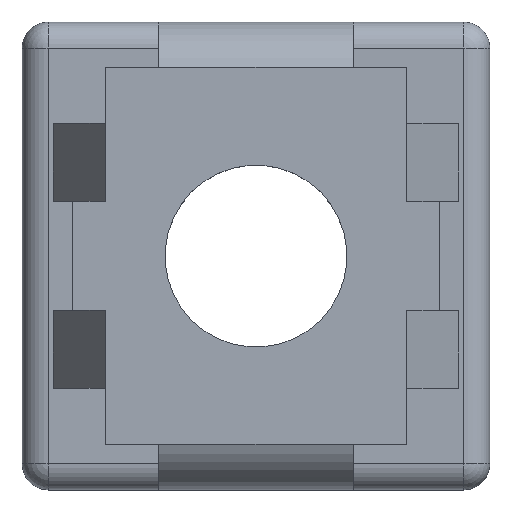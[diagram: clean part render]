
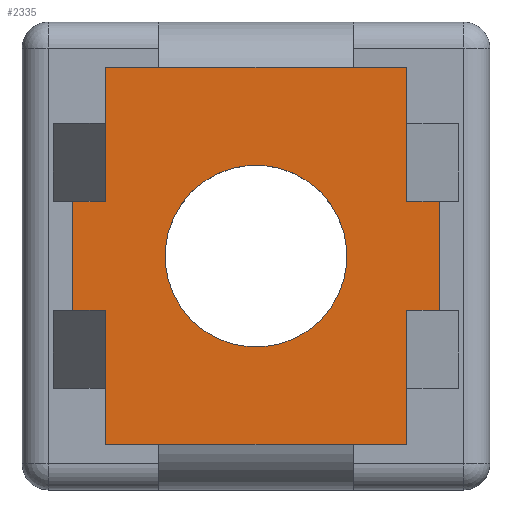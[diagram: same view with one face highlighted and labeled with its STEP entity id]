
A CAD part, top view. The second image highlights one B-rep face of the part: STEP entity #2335.
In plain terms, the highlighted planar face has unit normal (0, 0, 1).
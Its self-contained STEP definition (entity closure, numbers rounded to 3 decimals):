
#74=CARTESIAN_POINT('',(-4.216,-19.9,0.693));
#75=VERTEX_POINT('',#74);
#82=CARTESIAN_POINT('',(-2.966,-19.9,0.693));
#83=VERTEX_POINT('',#82);
#84=CARTESIAN_POINT('',(-4.216,-19.9,0.693));
#85=DIRECTION('',(1.,-0.,-0.));
#86=VECTOR('',#85,1.25);
#87=LINE('',#84,#86);
#88=EDGE_CURVE('',#75,#83,#87,.T.);
#162=CARTESIAN_POINT('',(-2.966,-24.1,0.693));
#163=VERTEX_POINT('',#162);
#170=CARTESIAN_POINT('',(-4.216,-24.1,0.693));
#171=VERTEX_POINT('',#170);
#172=CARTESIAN_POINT('',(-2.966,-24.1,0.693));
#173=DIRECTION('',(-1.,0.,0.));
#174=VECTOR('',#173,1.25);
#175=LINE('',#172,#174);
#176=EDGE_CURVE('',#163,#171,#175,.T.);
#345=CARTESIAN_POINT('',(-15.816,-29.25,0.693));
#346=VERTEX_POINT('',#345);
#353=CARTESIAN_POINT('',(-15.816,-24.1,0.693));
#354=VERTEX_POINT('',#353);
#355=CARTESIAN_POINT('',(-15.816,-29.25,0.693));
#356=DIRECTION('',(0.,1.,-0.));
#357=VECTOR('',#356,5.15);
#358=LINE('',#355,#357);
#359=EDGE_CURVE('',#346,#354,#358,.T.);
#400=CARTESIAN_POINT('',(-15.816,-19.9,0.693));
#401=VERTEX_POINT('',#400);
#415=CARTESIAN_POINT('',(-17.066,-19.9,0.693));
#416=VERTEX_POINT('',#415);
#423=CARTESIAN_POINT('',(-17.066,-19.9,0.693));
#424=DIRECTION('',(1.,-0.,-0.));
#425=VECTOR('',#424,1.25);
#426=LINE('',#423,#425);
#427=EDGE_CURVE('',#416,#401,#426,.T.);
#444=CARTESIAN_POINT('',(-4.216,-26.625,0.693));
#445=VERTEX_POINT('',#444);
#446=CARTESIAN_POINT('',(-4.216,-24.1,0.693));
#447=DIRECTION('',(0.,-1.,0.));
#448=VECTOR('',#447,2.525);
#449=LINE('',#446,#448);
#450=EDGE_CURVE('',#171,#445,#449,.T.);
#452=CARTESIAN_POINT('',(-4.216,-29.25,0.693));
#453=VERTEX_POINT('',#452);
#454=CARTESIAN_POINT('',(-4.216,-26.625,0.693));
#455=DIRECTION('',(0.,-1.,0.));
#456=VECTOR('',#455,2.625);
#457=LINE('',#454,#456);
#458=EDGE_CURVE('',#445,#453,#457,.T.);
#2199=CARTESIAN_POINT('',(-21.516,-22.,0.693));
#2200=DIRECTION('',(0.,0.,1.));
#2201=DIRECTION('',(-1.,0.,0.));
#2202=AXIS2_PLACEMENT_3D('',#2199,#2200,#2201);
#2203=PLANE('',#2202);
#2204=CARTESIAN_POINT('',(-14.016,-29.25,0.693));
#2205=VERTEX_POINT('',#2204);
#2206=CARTESIAN_POINT('',(-14.016,-29.25,0.693));
#2207=DIRECTION('',(-1.,0.,0.));
#2208=VECTOR('',#2207,1.8);
#2209=LINE('',#2206,#2208);
#2210=EDGE_CURVE('',#2205,#346,#2209,.T.);
#2211=ORIENTED_EDGE('',*,*,#2210,.F.);
#2212=CARTESIAN_POINT('',(-10.016,-29.25,0.693));
#2213=VERTEX_POINT('',#2212);
#2214=CARTESIAN_POINT('',(-10.016,-29.25,0.693));
#2215=DIRECTION('',(-1.,0.,0.));
#2216=VECTOR('',#2215,4.);
#2217=LINE('',#2214,#2216);
#2218=EDGE_CURVE('',#2213,#2205,#2217,.T.);
#2219=ORIENTED_EDGE('',*,*,#2218,.F.);
#2220=CARTESIAN_POINT('',(-6.016,-29.25,0.693));
#2221=VERTEX_POINT('',#2220);
#2222=CARTESIAN_POINT('',(-6.016,-29.25,0.693));
#2223=DIRECTION('',(-1.,0.,0.));
#2224=VECTOR('',#2223,4.);
#2225=LINE('',#2222,#2224);
#2226=EDGE_CURVE('',#2221,#2213,#2225,.T.);
#2227=ORIENTED_EDGE('',*,*,#2226,.F.);
#2228=CARTESIAN_POINT('',(-4.216,-29.25,0.693));
#2229=DIRECTION('',(-1.,0.,0.));
#2230=VECTOR('',#2229,1.8);
#2231=LINE('',#2228,#2230);
#2232=EDGE_CURVE('',#453,#2221,#2231,.T.);
#2233=ORIENTED_EDGE('',*,*,#2232,.F.);
#2234=ORIENTED_EDGE('',*,*,#458,.F.);
#2235=ORIENTED_EDGE('',*,*,#450,.F.);
#2236=ORIENTED_EDGE('',*,*,#176,.F.);
#2237=CARTESIAN_POINT('',(-2.966,-22.,0.693));
#2238=VERTEX_POINT('',#2237);
#2239=CARTESIAN_POINT('',(-2.966,-22.,0.693));
#2240=DIRECTION('',(-0.,-1.,0.));
#2241=VECTOR('',#2240,2.1);
#2242=LINE('',#2239,#2241);
#2243=EDGE_CURVE('',#2238,#163,#2242,.T.);
#2244=ORIENTED_EDGE('',*,*,#2243,.F.);
#2245=CARTESIAN_POINT('',(-2.966,-19.9,0.693));
#2246=DIRECTION('',(-0.,-1.,0.));
#2247=VECTOR('',#2246,2.1);
#2248=LINE('',#2245,#2247);
#2249=EDGE_CURVE('',#83,#2238,#2248,.T.);
#2250=ORIENTED_EDGE('',*,*,#2249,.F.);
#2251=ORIENTED_EDGE('',*,*,#88,.F.);
#2252=CARTESIAN_POINT('',(-4.216,-17.375,0.693));
#2253=VERTEX_POINT('',#2252);
#2254=CARTESIAN_POINT('',(-4.216,-17.375,0.693));
#2255=DIRECTION('',(0.,-1.,0.));
#2256=VECTOR('',#2255,2.525);
#2257=LINE('',#2254,#2256);
#2258=EDGE_CURVE('',#2253,#75,#2257,.T.);
#2259=ORIENTED_EDGE('',*,*,#2258,.F.);
#2260=CARTESIAN_POINT('',(-4.216,-14.75,0.693));
#2261=VERTEX_POINT('',#2260);
#2262=CARTESIAN_POINT('',(-4.216,-14.75,0.693));
#2263=DIRECTION('',(0.,-1.,0.));
#2264=VECTOR('',#2263,2.625);
#2265=LINE('',#2262,#2264);
#2266=EDGE_CURVE('',#2261,#2253,#2265,.T.);
#2267=ORIENTED_EDGE('',*,*,#2266,.F.);
#2268=CARTESIAN_POINT('',(-6.016,-14.75,0.693));
#2269=VERTEX_POINT('',#2268);
#2270=CARTESIAN_POINT('',(-6.016,-14.75,0.693));
#2271=DIRECTION('',(1.,-0.,-0.));
#2272=VECTOR('',#2271,1.8);
#2273=LINE('',#2270,#2272);
#2274=EDGE_CURVE('',#2269,#2261,#2273,.T.);
#2275=ORIENTED_EDGE('',*,*,#2274,.F.);
#2276=CARTESIAN_POINT('',(-10.016,-14.75,0.693));
#2277=VERTEX_POINT('',#2276);
#2278=CARTESIAN_POINT('',(-10.016,-14.75,0.693));
#2279=DIRECTION('',(1.,-0.,-0.));
#2280=VECTOR('',#2279,4.);
#2281=LINE('',#2278,#2280);
#2282=EDGE_CURVE('',#2277,#2269,#2281,.T.);
#2283=ORIENTED_EDGE('',*,*,#2282,.F.);
#2284=CARTESIAN_POINT('',(-14.016,-14.75,0.693));
#2285=VERTEX_POINT('',#2284);
#2286=CARTESIAN_POINT('',(-14.016,-14.75,0.693));
#2287=DIRECTION('',(1.,-0.,-0.));
#2288=VECTOR('',#2287,4.);
#2289=LINE('',#2286,#2288);
#2290=EDGE_CURVE('',#2285,#2277,#2289,.T.);
#2291=ORIENTED_EDGE('',*,*,#2290,.F.);
#2292=CARTESIAN_POINT('',(-15.816,-14.75,0.693));
#2293=VERTEX_POINT('',#2292);
#2294=CARTESIAN_POINT('',(-15.816,-14.75,0.693));
#2295=DIRECTION('',(1.,-0.,-0.));
#2296=VECTOR('',#2295,1.8);
#2297=LINE('',#2294,#2296);
#2298=EDGE_CURVE('',#2293,#2285,#2297,.T.);
#2299=ORIENTED_EDGE('',*,*,#2298,.F.);
#2300=CARTESIAN_POINT('',(-15.816,-19.9,0.693));
#2301=DIRECTION('',(0.,1.,-0.));
#2302=VECTOR('',#2301,5.15);
#2303=LINE('',#2300,#2302);
#2304=EDGE_CURVE('',#401,#2293,#2303,.T.);
#2305=ORIENTED_EDGE('',*,*,#2304,.F.);
#2306=ORIENTED_EDGE('',*,*,#427,.F.);
#2307=CARTESIAN_POINT('',(-17.066,-24.1,0.693));
#2308=VERTEX_POINT('',#2307);
#2309=CARTESIAN_POINT('',(-17.066,-24.1,0.693));
#2310=DIRECTION('',(0.,1.,-0.));
#2311=VECTOR('',#2310,4.2);
#2312=LINE('',#2309,#2311);
#2313=EDGE_CURVE('',#2308,#416,#2312,.T.);
#2314=ORIENTED_EDGE('',*,*,#2313,.F.);
#2315=CARTESIAN_POINT('',(-15.816,-24.1,0.693));
#2316=DIRECTION('',(-1.,0.,0.));
#2317=VECTOR('',#2316,1.25);
#2318=LINE('',#2315,#2317);
#2319=EDGE_CURVE('',#354,#2308,#2318,.T.);
#2320=ORIENTED_EDGE('',*,*,#2319,.F.);
#2321=ORIENTED_EDGE('',*,*,#359,.F.);
#2322=EDGE_LOOP('',(#2211,#2219,#2227,#2233,#2234,#2235,#2236,#2244,#2250,#2251,#2259,#2267,#2275,#2283,#2291,#2299,#2305,#2306,#2314,#2320,#2321));
#2323=FACE_BOUND('',#2322,.T.);
#2324=CARTESIAN_POINT('',(-7.541,-19.525,0.693));
#2325=VERTEX_POINT('',#2324);
#2326=CARTESIAN_POINT('',(-10.016,-22.,0.693));
#2327=DIRECTION('',(0.,0.,1.));
#2328=DIRECTION('',(0.707,0.707,-0.));
#2329=AXIS2_PLACEMENT_3D('',#2326,#2327,#2328);
#2330=CIRCLE('',#2329,3.5);
#2331=EDGE_CURVE('',#2325,#2325,#2330,.T.);
#2332=ORIENTED_EDGE('',*,*,#2331,.F.);
#2333=EDGE_LOOP('',(#2332));
#2334=FACE_BOUND('',#2333,.T.);
#2335=ADVANCED_FACE('',(#2323,#2334),#2203,.T.);
